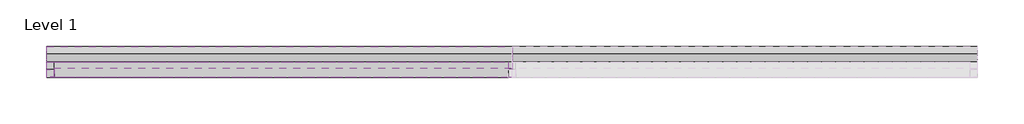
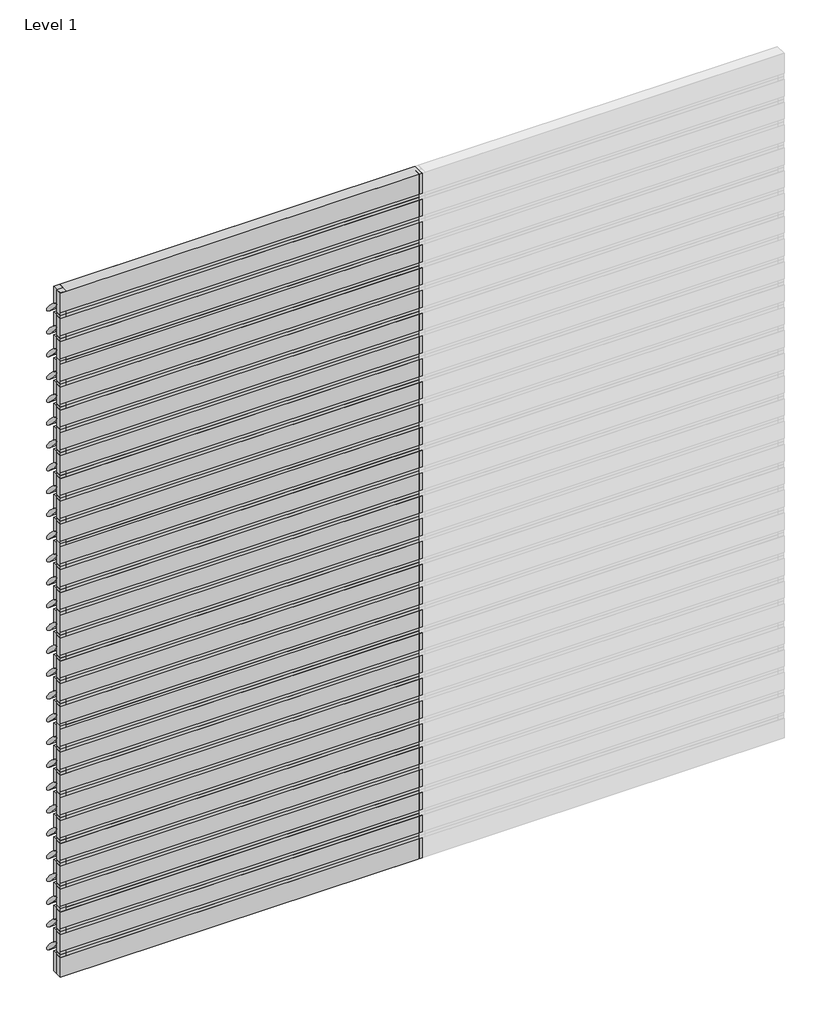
# One storey, part 1 of 2: 74 members, 60 plates.
"""IFC4 building model written with IfcOpenShell, lengths in millimetres."""

from ifc_helpers import new_model, si_unit, origin, place, context, project, spatial, transform, mapped, element, save
from components import rectangular_mullion_0c68277b, rectangular_mullion_a06afc58, empty_system_panel_empty_aee84036, empty_system_panel_empty_4cab923f, empty_system_panel_empty_34a2d59f

model = new_model("IFC4")

# Units and contexts
model_context = context("Model", 3, world=origin())
ifc_project = project(units=[si_unit("LENGTHUNIT", "METRE", prefix="MILLI")], contexts=[model_context])

# Site, building, storey
site = spatial("IfcSite", under=ifc_project)
building = spatial("IfcBuilding", under=site)
storey = spatial("IfcBuildingStorey", under=building, Name="Level 1", Elevation=0.0)

# Members
placement = place(None, origin())
rectangular_mullion_shape = rectangular_mullion_0c68277b(model_context)
element("IfcMember", 1, ObjectType="Rectangular Mullion : RSen_21_CWM_blade - 200 ellips - 45°_gen_duco projects", at=placement, inside=storey, context=model_context, shape_type="MappedRepresentation", body=[
    mapped(rectangular_mullion_shape, transform((3000.0, 3000.0, 200.0), x_axis=(0.0, 0.0, 1.0), y_axis=(0.0, 1.0, 0.0), z_axis=(-1.0, 0.0, 0.0))),
])
element("IfcMember", 2, ObjectType="Rectangular Mullion : RSen_21_CWM_blade - 200 ellips - 45°_gen_duco projects", at=placement, inside=storey, context=model_context, shape_type="MappedRepresentation", body=[
    mapped(rectangular_mullion_shape, transform((3000.0, 3000.0, 400.0), x_axis=(0.0, 0.0, 1.0), y_axis=(0.0, 1.0, 0.0), z_axis=(-1.0, 0.0, 0.0))),
])
element("IfcMember", 3, ObjectType="Rectangular Mullion : RSen_21_CWM_blade - 200 ellips - 45°_gen_duco projects", at=placement, inside=storey, context=model_context, shape_type="MappedRepresentation", body=[
    mapped(rectangular_mullion_shape, transform((3000.0, 3000.0, 600.0), x_axis=(0.0, 0.0, 1.0), y_axis=(0.0, 1.0, 0.0), z_axis=(-1.0, 0.0, 0.0))),
])
element("IfcMember", 4, ObjectType="Rectangular Mullion : RSen_21_CWM_blade - 200 ellips - 45°_gen_duco projects", at=placement, inside=storey, context=model_context, shape_type="MappedRepresentation", body=[
    mapped(rectangular_mullion_shape, transform((3000.0, 3000.0, 800.0), x_axis=(0.0, 0.0, 1.0), y_axis=(0.0, 1.0, 0.0), z_axis=(-1.0, 0.0, 0.0))),
])
element("IfcMember", 5, ObjectType="Rectangular Mullion : RSen_21_CWM_blade - 200 ellips - 45°_gen_duco projects", at=placement, inside=storey, context=model_context, shape_type="MappedRepresentation", body=[
    mapped(rectangular_mullion_shape, transform((3000.0, 3000.0, 1000.0), x_axis=(0.0, 0.0, 1.0), y_axis=(0.0, 1.0, 0.0), z_axis=(-1.0, 0.0, 0.0))),
])
element("IfcMember", 6, ObjectType="Rectangular Mullion : RSen_21_CWM_blade - 200 ellips - 45°_gen_duco projects", at=placement, inside=storey, context=model_context, shape_type="MappedRepresentation", body=[
    mapped(rectangular_mullion_shape, transform((3000.0, 3000.0, 1200.0), x_axis=(0.0, 0.0, 1.0), y_axis=(0.0, 1.0, 0.0), z_axis=(-1.0, 0.0, 0.0))),
])
element("IfcMember", 7, ObjectType="Rectangular Mullion : RSen_21_CWM_blade - 200 ellips - 45°_gen_duco projects", at=placement, inside=storey, context=model_context, shape_type="MappedRepresentation", body=[
    mapped(rectangular_mullion_shape, transform((3000.0, 3000.0, 1400.0), x_axis=(0.0, 0.0, 1.0), y_axis=(0.0, 1.0, 0.0), z_axis=(-1.0, 0.0, 0.0))),
])
element("IfcMember", 8, ObjectType="Rectangular Mullion : RSen_21_CWM_blade - 200 ellips - 45°_gen_duco projects", at=placement, inside=storey, context=model_context, shape_type="MappedRepresentation", body=[
    mapped(rectangular_mullion_shape, transform((3000.0, 3000.0, 1600.0), x_axis=(0.0, 0.0, 1.0), y_axis=(0.0, 1.0, 0.0), z_axis=(-1.0, 0.0, 0.0))),
])
element("IfcMember", 9, ObjectType="Rectangular Mullion : RSen_21_CWM_blade - 200 ellips - 45°_gen_duco projects", at=placement, inside=storey, context=model_context, shape_type="MappedRepresentation", body=[
    mapped(rectangular_mullion_shape, transform((3000.0, 3000.0, 1800.0), x_axis=(0.0, 0.0, 1.0), y_axis=(0.0, 1.0, 0.0), z_axis=(-1.0, 0.0, 0.0))),
])
element("IfcMember", 10, ObjectType="Rectangular Mullion : RSen_21_CWM_blade - 200 ellips - 45°_gen_duco projects", at=placement, inside=storey, context=model_context, shape_type="MappedRepresentation", body=[
    mapped(rectangular_mullion_shape, transform((3000.0, 3000.0, 2000.0), x_axis=(0.0, 0.0, 1.0), y_axis=(0.0, 1.0, 0.0), z_axis=(-1.0, 0.0, 0.0))),
])
element("IfcMember", 11, ObjectType="Rectangular Mullion : RSen_21_CWM_blade - 200 ellips - 45°_gen_duco projects", at=placement, inside=storey, context=model_context, shape_type="MappedRepresentation", body=[
    mapped(rectangular_mullion_shape, transform((3000.0, 3000.0, 2200.0), x_axis=(0.0, 0.0, 1.0), y_axis=(0.0, 1.0, 0.0), z_axis=(-1.0, 0.0, 0.0))),
])
element("IfcMember", 12, ObjectType="Rectangular Mullion : RSen_21_CWM_blade - 200 ellips - 45°_gen_duco projects", at=placement, inside=storey, context=model_context, shape_type="MappedRepresentation", body=[
    mapped(rectangular_mullion_shape, transform((3000.0, 3000.0, 2400.0), x_axis=(0.0, 0.0, 1.0), y_axis=(0.0, 1.0, 0.0), z_axis=(-1.0, 0.0, 0.0))),
])
element("IfcMember", 13, ObjectType="Rectangular Mullion : RSen_21_CWM_blade - 200 ellips - 45°_gen_duco projects", at=placement, inside=storey, context=model_context, shape_type="MappedRepresentation", body=[
    mapped(rectangular_mullion_shape, transform((3000.0, 3000.0, 2600.0), x_axis=(0.0, 0.0, 1.0), y_axis=(0.0, 1.0, 0.0), z_axis=(-1.0, 0.0, 0.0))),
])
element("IfcMember", 14, ObjectType="Rectangular Mullion : RSen_21_CWM_blade - 200 ellips - 45°_gen_duco projects", at=placement, inside=storey, context=model_context, shape_type="MappedRepresentation", body=[
    mapped(rectangular_mullion_shape, transform((3000.0, 3000.0, 2800.0), x_axis=(0.0, 0.0, 1.0), y_axis=(0.0, 1.0, 0.0), z_axis=(-1.0, 0.0, 0.0))),
])
element("IfcMember", 15, ObjectType="Rectangular Mullion : RSen_21_CWM_blade - 200 ellips - 45°_gen_duco projects", at=placement, inside=storey, context=model_context, shape_type="MappedRepresentation", body=[
    mapped(rectangular_mullion_shape, transform((3000.0, 3000.0, 3000.0), x_axis=(0.0, 0.0, 1.0), y_axis=(0.0, 1.0, 0.0), z_axis=(-1.0, 0.0, 0.0))),
])
element("IfcMember", 16, ObjectType="Rectangular Mullion : RSen_21_CWM_blade - 200 ellips - 45°_gen_duco projects", at=placement, inside=storey, context=model_context, shape_type="MappedRepresentation", body=[
    mapped(rectangular_mullion_shape, transform((0.0, 3000.0, 200.0), x_axis=(0.0, 0.0, 1.0), y_axis=(0.0, 1.0, 0.0), z_axis=(-1.0, 0.0, 0.0))),
])
element("IfcMember", 17, ObjectType="Rectangular Mullion : RSen_21_CWM_blade - 200 ellips - 45°_gen_duco projects", at=placement, inside=storey, context=model_context, shape_type="MappedRepresentation", body=[
    mapped(rectangular_mullion_shape, transform((0.0, 3000.0, 400.0), x_axis=(0.0, 0.0, 1.0), y_axis=(0.0, 1.0, 0.0), z_axis=(-1.0, 0.0, 0.0))),
])
element("IfcMember", 18, ObjectType="Rectangular Mullion : RSen_21_CWM_blade - 200 ellips - 45°_gen_duco projects", at=placement, inside=storey, context=model_context, shape_type="MappedRepresentation", body=[
    mapped(rectangular_mullion_shape, transform((0.0, 3000.0, 600.0), x_axis=(0.0, 0.0, 1.0), y_axis=(0.0, 1.0, 0.0), z_axis=(-1.0, 0.0, 0.0))),
])
element("IfcMember", 19, ObjectType="Rectangular Mullion : RSen_21_CWM_blade - 200 ellips - 45°_gen_duco projects", at=placement, inside=storey, context=model_context, shape_type="MappedRepresentation", body=[
    mapped(rectangular_mullion_shape, transform((0.0, 3000.0, 800.0), x_axis=(0.0, 0.0, 1.0), y_axis=(0.0, 1.0, 0.0), z_axis=(-1.0, 0.0, 0.0))),
])
element("IfcMember", 20, ObjectType="Rectangular Mullion : RSen_21_CWM_blade - 200 ellips - 45°_gen_duco projects", at=placement, inside=storey, context=model_context, shape_type="MappedRepresentation", body=[
    mapped(rectangular_mullion_shape, transform((0.0, 3000.0, 1000.0), x_axis=(0.0, 0.0, 1.0), y_axis=(0.0, 1.0, 0.0), z_axis=(-1.0, 0.0, 0.0))),
])
element("IfcMember", 21, ObjectType="Rectangular Mullion : RSen_21_CWM_blade - 200 ellips - 45°_gen_duco projects", at=placement, inside=storey, context=model_context, shape_type="MappedRepresentation", body=[
    mapped(rectangular_mullion_shape, transform((0.0, 3000.0, 1200.0), x_axis=(0.0, 0.0, 1.0), y_axis=(0.0, 1.0, 0.0), z_axis=(-1.0, 0.0, 0.0))),
])
element("IfcMember", 22, ObjectType="Rectangular Mullion : RSen_21_CWM_blade - 200 ellips - 45°_gen_duco projects", at=placement, inside=storey, context=model_context, shape_type="MappedRepresentation", body=[
    mapped(rectangular_mullion_shape, transform((0.0, 3000.0, 1400.0), x_axis=(0.0, 0.0, 1.0), y_axis=(0.0, 1.0, 0.0), z_axis=(-1.0, 0.0, 0.0))),
])
element("IfcMember", 23, ObjectType="Rectangular Mullion : RSen_21_CWM_blade - 200 ellips - 45°_gen_duco projects", at=placement, inside=storey, context=model_context, shape_type="MappedRepresentation", body=[
    mapped(rectangular_mullion_shape, transform((0.0, 3000.0, 1600.0), x_axis=(0.0, 0.0, 1.0), y_axis=(0.0, 1.0, 0.0), z_axis=(-1.0, 0.0, 0.0))),
])
element("IfcMember", 24, ObjectType="Rectangular Mullion : RSen_21_CWM_blade - 200 ellips - 45°_gen_duco projects", at=placement, inside=storey, context=model_context, shape_type="MappedRepresentation", body=[
    mapped(rectangular_mullion_shape, transform((0.0, 3000.0, 1800.0), x_axis=(0.0, 0.0, 1.0), y_axis=(0.0, 1.0, 0.0), z_axis=(-1.0, 0.0, 0.0))),
])
element("IfcMember", 25, ObjectType="Rectangular Mullion : RSen_21_CWM_blade - 200 ellips - 45°_gen_duco projects", at=placement, inside=storey, context=model_context, shape_type="MappedRepresentation", body=[
    mapped(rectangular_mullion_shape, transform((0.0, 3000.0, 2000.0), x_axis=(0.0, 0.0, 1.0), y_axis=(0.0, 1.0, 0.0), z_axis=(-1.0, 0.0, 0.0))),
])
element("IfcMember", 26, ObjectType="Rectangular Mullion : RSen_21_CWM_blade - 200 ellips - 45°_gen_duco projects", at=placement, inside=storey, context=model_context, shape_type="MappedRepresentation", body=[
    mapped(rectangular_mullion_shape, transform((0.0, 3000.0, 2200.0), x_axis=(0.0, 0.0, 1.0), y_axis=(0.0, 1.0, 0.0), z_axis=(-1.0, 0.0, 0.0))),
])
element("IfcMember", 27, ObjectType="Rectangular Mullion : RSen_21_CWM_blade - 200 ellips - 45°_gen_duco projects", at=placement, inside=storey, context=model_context, shape_type="MappedRepresentation", body=[
    mapped(rectangular_mullion_shape, transform((0.0, 3000.0, 2400.0), x_axis=(0.0, 0.0, 1.0), y_axis=(0.0, 1.0, 0.0), z_axis=(-1.0, 0.0, 0.0))),
])
element("IfcMember", 28, ObjectType="Rectangular Mullion : RSen_21_CWM_blade - 200 ellips - 45°_gen_duco projects", at=placement, inside=storey, context=model_context, shape_type="MappedRepresentation", body=[
    mapped(rectangular_mullion_shape, transform((0.0, 3000.0, 2600.0), x_axis=(0.0, 0.0, 1.0), y_axis=(0.0, 1.0, 0.0), z_axis=(-1.0, 0.0, 0.0))),
])
element("IfcMember", 29, ObjectType="Rectangular Mullion : RSen_21_CWM_blade - 200 ellips - 45°_gen_duco projects", at=placement, inside=storey, context=model_context, shape_type="MappedRepresentation", body=[
    mapped(rectangular_mullion_shape, transform((0.0, 3000.0, 2800.0), x_axis=(0.0, 0.0, 1.0), y_axis=(0.0, 1.0, 0.0), z_axis=(-1.0, 0.0, 0.0))),
])
element("IfcMember", 30, ObjectType="Rectangular Mullion : RSen_21_CWM_blade - 200 ellips - 45°_gen_duco projects", at=placement, inside=storey, context=model_context, shape_type="MappedRepresentation", body=[
    mapped(rectangular_mullion_shape, transform((0.0, 3000.0, 3000.0), x_axis=(0.0, 0.0, 1.0), y_axis=(0.0, 1.0, 0.0), z_axis=(-1.0, 0.0, 0.0))),
])
element("IfcMember", 31, ObjectType="Rectangular Mullion : RSen_21_CWM_blade - 200 ellips - 45°_gen_duco projects", at=placement, inside=storey, context=model_context, shape_type="MappedRepresentation", body=[
    mapped(rectangular_mullion_shape, transform((0.0, 3000.0, 3200.0), x_axis=(0.0, 0.0, 1.0), y_axis=(0.0, 1.0, 0.0), z_axis=(-1.0, 0.0, 0.0))),
])
element("IfcMember", 32, ObjectType="Rectangular Mullion : RSen_21_CWM_blade - 200 ellips - 45°_gen_duco projects", at=placement, inside=storey, context=model_context, shape_type="MappedRepresentation", body=[
    mapped(rectangular_mullion_shape, transform((0.0, 3000.0, 3400.0), x_axis=(0.0, 0.0, 1.0), y_axis=(0.0, 1.0, 0.0), z_axis=(-1.0, 0.0, 0.0))),
])
element("IfcMember", 33, ObjectType="Rectangular Mullion : RSen_21_CWM_blade - 200 ellips - 45°_gen_duco projects", at=placement, inside=storey, context=model_context, shape_type="MappedRepresentation", body=[
    mapped(rectangular_mullion_shape, transform((0.0, 3000.0, 3600.0), x_axis=(0.0, 0.0, 1.0), y_axis=(0.0, 1.0, 0.0), z_axis=(-1.0, 0.0, 0.0))),
])
element("IfcMember", 34, ObjectType="Rectangular Mullion : RSen_21_CWM_blade - 200 ellips - 45°_gen_duco projects", at=placement, inside=storey, context=model_context, shape_type="MappedRepresentation", body=[
    mapped(rectangular_mullion_shape, transform((0.0, 3000.0, 3800.0), x_axis=(0.0, 0.0, 1.0), y_axis=(0.0, 1.0, 0.0), z_axis=(-1.0, 0.0, 0.0))),
])
element("IfcMember", 35, ObjectType="Rectangular Mullion : RSen_21_CWM_blade - 200 ellips - 45°_gen_duco projects", at=placement, inside=storey, context=model_context, shape_type="MappedRepresentation", body=[
    mapped(rectangular_mullion_shape, transform((0.0, 3000.0, 4000.0), x_axis=(0.0, 0.0, 1.0), y_axis=(0.0, 1.0, 0.0), z_axis=(-1.0, 0.0, 0.0))),
])
element("IfcMember", 36, ObjectType="Rectangular Mullion : RSen_21_CWM_blade - 200 ellips - 45°_gen_duco projects", at=placement, inside=storey, context=model_context, shape_type="MappedRepresentation", body=[
    mapped(rectangular_mullion_shape, transform((0.0, 3000.0, 4200.0), x_axis=(0.0, 0.0, 1.0), y_axis=(0.0, 1.0, 0.0), z_axis=(-1.0, 0.0, 0.0))),
])
element("IfcMember", 37, ObjectType="Rectangular Mullion : RSen_21_CWM_blade - 200 ellips - 45°_gen_duco projects", at=placement, inside=storey, context=model_context, shape_type="MappedRepresentation", body=[
    mapped(rectangular_mullion_shape, transform((0.0, 3000.0, 4400.0), x_axis=(0.0, 0.0, 1.0), y_axis=(0.0, 1.0, 0.0), z_axis=(-1.0, 0.0, 0.0))),
])
element("IfcMember", 38, ObjectType="Rectangular Mullion : RSen_21_CWM_blade - 200 ellips - 45°_gen_duco projects", at=placement, inside=storey, context=model_context, shape_type="MappedRepresentation", body=[
    mapped(rectangular_mullion_shape, transform((0.0, 3000.0, 4600.0), x_axis=(0.0, 0.0, 1.0), y_axis=(0.0, 1.0, 0.0), z_axis=(-1.0, 0.0, 0.0))),
])
element("IfcMember", 39, ObjectType="Rectangular Mullion : RSen_21_CWM_blade - 200 ellips - 45°_gen_duco projects", at=placement, inside=storey, context=model_context, shape_type="MappedRepresentation", body=[
    mapped(rectangular_mullion_shape, transform((0.0, 3000.0, 4800.0), x_axis=(0.0, 0.0, 1.0), y_axis=(0.0, 1.0, 0.0), z_axis=(-1.0, 0.0, 0.0))),
])
element("IfcMember", 40, ObjectType="Rectangular Mullion : RSen_21_CWM_blade - 200 ellips - 45°_gen_duco projects", at=placement, inside=storey, context=model_context, shape_type="MappedRepresentation", body=[
    mapped(rectangular_mullion_shape, transform((0.0, 3000.0, 5000.0), x_axis=(0.0, 0.0, 1.0), y_axis=(0.0, 1.0, 0.0), z_axis=(-1.0, 0.0, 0.0))),
])
element("IfcMember", 41, ObjectType="Rectangular Mullion : RSen_21_CWM_blade - 200 ellips - 45°_gen_duco projects", at=placement, inside=storey, context=model_context, shape_type="MappedRepresentation", body=[
    mapped(rectangular_mullion_shape, transform((0.0, 3000.0, 5200.0), x_axis=(0.0, 0.0, 1.0), y_axis=(0.0, 1.0, 0.0), z_axis=(-1.0, 0.0, 0.0))),
])
element("IfcMember", 42, ObjectType="Rectangular Mullion : RSen_21_CWM_blade - 200 ellips - 45°_gen_duco projects", at=placement, inside=storey, context=model_context, shape_type="MappedRepresentation", body=[
    mapped(rectangular_mullion_shape, transform((0.0, 3000.0, 5400.0), x_axis=(0.0, 0.0, 1.0), y_axis=(0.0, 1.0, 0.0), z_axis=(-1.0, 0.0, 0.0))),
])
element("IfcMember", 43, ObjectType="Rectangular Mullion : RSen_21_CWM_blade - 200 ellips - 45°_gen_duco projects", at=placement, inside=storey, context=model_context, shape_type="MappedRepresentation", body=[
    mapped(rectangular_mullion_shape, transform((0.0, 3000.0, 5600.0), x_axis=(0.0, 0.0, 1.0), y_axis=(0.0, 1.0, 0.0), z_axis=(-1.0, 0.0, 0.0))),
])
element("IfcMember", 44, ObjectType="Rectangular Mullion : RSen_21_CWM_blade - 200 ellips - 45°_gen_duco projects", at=placement, inside=storey, context=model_context, shape_type="MappedRepresentation", body=[
    mapped(rectangular_mullion_shape, transform((0.0, 3000.0, 5800.0), x_axis=(0.0, 0.0, 1.0), y_axis=(0.0, 1.0, 0.0), z_axis=(-1.0, 0.0, 0.0))),
])
rectangular_mullion_2_shape = rectangular_mullion_a06afc58(model_context)
element("IfcMember", 45, ObjectType="Rectangular Mullion : RSen_21_CWM_support profile 50x50 - left_gen_duco projects", at=placement, inside=storey, context=model_context, shape_type="MappedRepresentation", body=[
    mapped(rectangular_mullion_2_shape, transform((0.0, 3000.0, 0.0), x_axis=(-1.0, 0.0, 0.0), y_axis=(0.0, 1.0, 0.0), z_axis=(0.0, 0.0, -1.0))),
])
element("IfcMember", 46, ObjectType="Rectangular Mullion : RSen_21_CWM_support profile 50x50 - left_gen_duco projects", at=placement, inside=storey, context=model_context, shape_type="MappedRepresentation", body=[
    mapped(rectangular_mullion_2_shape, transform((0.0, 3000.0, 200.0), x_axis=(-1.0, 0.0, 0.0), y_axis=(0.0, 1.0, 0.0), z_axis=(0.0, 0.0, -1.0))),
])
element("IfcMember", 47, ObjectType="Rectangular Mullion : RSen_21_CWM_support profile 50x50 - left_gen_duco projects", at=placement, inside=storey, context=model_context, shape_type="MappedRepresentation", body=[
    mapped(rectangular_mullion_2_shape, transform((0.0, 3000.0, 400.0), x_axis=(-1.0, 0.0, 0.0), y_axis=(0.0, 1.0, 0.0), z_axis=(0.0, 0.0, -1.0))),
])
element("IfcMember", 48, ObjectType="Rectangular Mullion : RSen_21_CWM_support profile 50x50 - left_gen_duco projects", at=placement, inside=storey, context=model_context, shape_type="MappedRepresentation", body=[
    mapped(rectangular_mullion_2_shape, transform((0.0, 3000.0, 600.0), x_axis=(-1.0, 0.0, 0.0), y_axis=(0.0, 1.0, 0.0), z_axis=(0.0, 0.0, -1.0))),
])
element("IfcMember", 49, ObjectType="Rectangular Mullion : RSen_21_CWM_support profile 50x50 - left_gen_duco projects", at=placement, inside=storey, context=model_context, shape_type="MappedRepresentation", body=[
    mapped(rectangular_mullion_2_shape, transform((0.0, 3000.0, 800.0), x_axis=(-1.0, 0.0, 0.0), y_axis=(0.0, 1.0, 0.0), z_axis=(0.0, 0.0, -1.0))),
])
element("IfcMember", 50, ObjectType="Rectangular Mullion : RSen_21_CWM_support profile 50x50 - left_gen_duco projects", at=placement, inside=storey, context=model_context, shape_type="MappedRepresentation", body=[
    mapped(rectangular_mullion_2_shape, transform((0.0, 3000.0, 1000.0), x_axis=(-1.0, 0.0, 0.0), y_axis=(0.0, 1.0, 0.0), z_axis=(0.0, 0.0, -1.0))),
])
element("IfcMember", 51, ObjectType="Rectangular Mullion : RSen_21_CWM_support profile 50x50 - left_gen_duco projects", at=placement, inside=storey, context=model_context, shape_type="MappedRepresentation", body=[
    mapped(rectangular_mullion_2_shape, transform((0.0, 3000.0, 1200.0), x_axis=(-1.0, 0.0, 0.0), y_axis=(0.0, 1.0, 0.0), z_axis=(0.0, 0.0, -1.0))),
])
element("IfcMember", 52, ObjectType="Rectangular Mullion : RSen_21_CWM_support profile 50x50 - left_gen_duco projects", at=placement, inside=storey, context=model_context, shape_type="MappedRepresentation", body=[
    mapped(rectangular_mullion_2_shape, transform((0.0, 3000.0, 1400.0), x_axis=(-1.0, 0.0, 0.0), y_axis=(0.0, 1.0, 0.0), z_axis=(0.0, 0.0, -1.0))),
])
element("IfcMember", 53, ObjectType="Rectangular Mullion : RSen_21_CWM_support profile 50x50 - left_gen_duco projects", at=placement, inside=storey, context=model_context, shape_type="MappedRepresentation", body=[
    mapped(rectangular_mullion_2_shape, transform((0.0, 3000.0, 1600.0), x_axis=(-1.0, 0.0, 0.0), y_axis=(0.0, 1.0, 0.0), z_axis=(0.0, 0.0, -1.0))),
])
element("IfcMember", 54, ObjectType="Rectangular Mullion : RSen_21_CWM_support profile 50x50 - left_gen_duco projects", at=placement, inside=storey, context=model_context, shape_type="MappedRepresentation", body=[
    mapped(rectangular_mullion_2_shape, transform((0.0, 3000.0, 1800.0), x_axis=(-1.0, 0.0, 0.0), y_axis=(0.0, 1.0, 0.0), z_axis=(0.0, 0.0, -1.0))),
])
element("IfcMember", 55, ObjectType="Rectangular Mullion : RSen_21_CWM_support profile 50x50 - left_gen_duco projects", at=placement, inside=storey, context=model_context, shape_type="MappedRepresentation", body=[
    mapped(rectangular_mullion_2_shape, transform((0.0, 3000.0, 2000.0), x_axis=(-1.0, 0.0, 0.0), y_axis=(0.0, 1.0, 0.0), z_axis=(0.0, 0.0, -1.0))),
])
element("IfcMember", 56, ObjectType="Rectangular Mullion : RSen_21_CWM_support profile 50x50 - left_gen_duco projects", at=placement, inside=storey, context=model_context, shape_type="MappedRepresentation", body=[
    mapped(rectangular_mullion_2_shape, transform((0.0, 3000.0, 2200.0), x_axis=(-1.0, 0.0, 0.0), y_axis=(0.0, 1.0, 0.0), z_axis=(0.0, 0.0, -1.0))),
])
element("IfcMember", 57, ObjectType="Rectangular Mullion : RSen_21_CWM_support profile 50x50 - left_gen_duco projects", at=placement, inside=storey, context=model_context, shape_type="MappedRepresentation", body=[
    mapped(rectangular_mullion_2_shape, transform((0.0, 3000.0, 2400.0), x_axis=(-1.0, 0.0, 0.0), y_axis=(0.0, 1.0, 0.0), z_axis=(0.0, 0.0, -1.0))),
])
element("IfcMember", 58, ObjectType="Rectangular Mullion : RSen_21_CWM_support profile 50x50 - left_gen_duco projects", at=placement, inside=storey, context=model_context, shape_type="MappedRepresentation", body=[
    mapped(rectangular_mullion_2_shape, transform((0.0, 3000.0, 2600.0), x_axis=(-1.0, 0.0, 0.0), y_axis=(0.0, 1.0, 0.0), z_axis=(0.0, 0.0, -1.0))),
])
element("IfcMember", 59, ObjectType="Rectangular Mullion : RSen_21_CWM_support profile 50x50 - left_gen_duco projects", at=placement, inside=storey, context=model_context, shape_type="MappedRepresentation", body=[
    mapped(rectangular_mullion_2_shape, transform((0.0, 3000.0, 2800.0), x_axis=(-1.0, 0.0, 0.0), y_axis=(0.0, 1.0, 0.0), z_axis=(0.0, 0.0, -1.0))),
])
element("IfcMember", 60, ObjectType="Rectangular Mullion : RSen_21_CWM_support profile 50x50 - left_gen_duco projects", at=placement, inside=storey, context=model_context, shape_type="MappedRepresentation", body=[
    mapped(rectangular_mullion_2_shape, transform((0.0, 3000.0, 3000.0), x_axis=(-1.0, 0.0, 0.0), y_axis=(0.0, 1.0, 0.0), z_axis=(0.0, 0.0, -1.0))),
])
element("IfcMember", 61, ObjectType="Rectangular Mullion : RSen_21_CWM_support profile 50x50 - left_gen_duco projects", at=placement, inside=storey, context=model_context, shape_type="MappedRepresentation", body=[
    mapped(rectangular_mullion_2_shape, transform((0.0, 3000.0, 3200.0), x_axis=(-1.0, 0.0, 0.0), y_axis=(0.0, 1.0, 0.0), z_axis=(0.0, 0.0, -1.0))),
])
element("IfcMember", 62, ObjectType="Rectangular Mullion : RSen_21_CWM_support profile 50x50 - left_gen_duco projects", at=placement, inside=storey, context=model_context, shape_type="MappedRepresentation", body=[
    mapped(rectangular_mullion_2_shape, transform((0.0, 3000.0, 3400.0), x_axis=(-1.0, 0.0, 0.0), y_axis=(0.0, 1.0, 0.0), z_axis=(0.0, 0.0, -1.0))),
])
element("IfcMember", 63, ObjectType="Rectangular Mullion : RSen_21_CWM_support profile 50x50 - left_gen_duco projects", at=placement, inside=storey, context=model_context, shape_type="MappedRepresentation", body=[
    mapped(rectangular_mullion_2_shape, transform((0.0, 3000.0, 3600.0), x_axis=(-1.0, 0.0, 0.0), y_axis=(0.0, 1.0, 0.0), z_axis=(0.0, 0.0, -1.0))),
])
element("IfcMember", 64, ObjectType="Rectangular Mullion : RSen_21_CWM_support profile 50x50 - left_gen_duco projects", at=placement, inside=storey, context=model_context, shape_type="MappedRepresentation", body=[
    mapped(rectangular_mullion_2_shape, transform((0.0, 3000.0, 3800.0), x_axis=(-1.0, 0.0, 0.0), y_axis=(0.0, 1.0, 0.0), z_axis=(0.0, 0.0, -1.0))),
])
element("IfcMember", 65, ObjectType="Rectangular Mullion : RSen_21_CWM_support profile 50x50 - left_gen_duco projects", at=placement, inside=storey, context=model_context, shape_type="MappedRepresentation", body=[
    mapped(rectangular_mullion_2_shape, transform((0.0, 3000.0, 4000.0), x_axis=(-1.0, 0.0, 0.0), y_axis=(0.0, 1.0, 0.0), z_axis=(0.0, 0.0, -1.0))),
])
element("IfcMember", 66, ObjectType="Rectangular Mullion : RSen_21_CWM_support profile 50x50 - left_gen_duco projects", at=placement, inside=storey, context=model_context, shape_type="MappedRepresentation", body=[
    mapped(rectangular_mullion_2_shape, transform((0.0, 3000.0, 4200.0), x_axis=(-1.0, 0.0, 0.0), y_axis=(0.0, 1.0, 0.0), z_axis=(0.0, 0.0, -1.0))),
])
element("IfcMember", 67, ObjectType="Rectangular Mullion : RSen_21_CWM_support profile 50x50 - left_gen_duco projects", at=placement, inside=storey, context=model_context, shape_type="MappedRepresentation", body=[
    mapped(rectangular_mullion_2_shape, transform((0.0, 3000.0, 4400.0), x_axis=(-1.0, 0.0, 0.0), y_axis=(0.0, 1.0, 0.0), z_axis=(0.0, 0.0, -1.0))),
])
element("IfcMember", 68, ObjectType="Rectangular Mullion : RSen_21_CWM_support profile 50x50 - left_gen_duco projects", at=placement, inside=storey, context=model_context, shape_type="MappedRepresentation", body=[
    mapped(rectangular_mullion_2_shape, transform((0.0, 3000.0, 4600.0), x_axis=(-1.0, 0.0, 0.0), y_axis=(0.0, 1.0, 0.0), z_axis=(0.0, 0.0, -1.0))),
])
element("IfcMember", 69, ObjectType="Rectangular Mullion : RSen_21_CWM_support profile 50x50 - left_gen_duco projects", at=placement, inside=storey, context=model_context, shape_type="MappedRepresentation", body=[
    mapped(rectangular_mullion_2_shape, transform((0.0, 3000.0, 4800.0), x_axis=(-1.0, 0.0, 0.0), y_axis=(0.0, 1.0, 0.0), z_axis=(0.0, 0.0, -1.0))),
])
element("IfcMember", 70, ObjectType="Rectangular Mullion : RSen_21_CWM_support profile 50x50 - left_gen_duco projects", at=placement, inside=storey, context=model_context, shape_type="MappedRepresentation", body=[
    mapped(rectangular_mullion_2_shape, transform((0.0, 3000.0, 5000.0), x_axis=(-1.0, 0.0, 0.0), y_axis=(0.0, 1.0, 0.0), z_axis=(0.0, 0.0, -1.0))),
])
element("IfcMember", 71, ObjectType="Rectangular Mullion : RSen_21_CWM_support profile 50x50 - left_gen_duco projects", at=placement, inside=storey, context=model_context, shape_type="MappedRepresentation", body=[
    mapped(rectangular_mullion_2_shape, transform((0.0, 3000.0, 5200.0), x_axis=(-1.0, 0.0, 0.0), y_axis=(0.0, 1.0, 0.0), z_axis=(0.0, 0.0, -1.0))),
])
element("IfcMember", 72, ObjectType="Rectangular Mullion : RSen_21_CWM_support profile 50x50 - left_gen_duco projects", at=placement, inside=storey, context=model_context, shape_type="MappedRepresentation", body=[
    mapped(rectangular_mullion_2_shape, transform((0.0, 3000.0, 5400.0), x_axis=(-1.0, 0.0, 0.0), y_axis=(0.0, 1.0, 0.0), z_axis=(0.0, 0.0, -1.0))),
])
element("IfcMember", 73, ObjectType="Rectangular Mullion : RSen_21_CWM_support profile 50x50 - left_gen_duco projects", at=placement, inside=storey, context=model_context, shape_type="MappedRepresentation", body=[
    mapped(rectangular_mullion_2_shape, transform((0.0, 3000.0, 5600.0), x_axis=(-1.0, 0.0, 0.0), y_axis=(0.0, 1.0, 0.0), z_axis=(0.0, 0.0, -1.0))),
])
element("IfcMember", 74, ObjectType="Rectangular Mullion : RSen_21_CWM_support profile 50x50 - left_gen_duco projects", at=placement, inside=storey, context=model_context, shape_type="MappedRepresentation", body=[
    mapped(rectangular_mullion_2_shape, transform((0.0, 3000.0, 5800.0), x_axis=(-1.0, 0.0, 0.0), y_axis=(0.0, 1.0, 0.0), z_axis=(0.0, 0.0, -1.0))),
])

# Plates
empty_system_panel_empty_shape = empty_system_panel_empty_aee84036(model_context)
element("IfcPlate", 75, ObjectType="Empty System Panel : Empty", at=placement, inside=storey, context=model_context, shape_type="MappedRepresentation", body=[
    mapped(empty_system_panel_empty_shape, transform((1500.0, 3000.0, 0.0), x_axis=(-1.0, 0.0, 0.0), y_axis=(0.0, -1.0, 0.0), z_axis=(0.0, 0.0, 1.0))),
])
element("IfcPlate", 76, ObjectType="Empty System Panel : Empty", at=placement, inside=storey, context=model_context, shape_type="MappedRepresentation", body=[
    mapped(empty_system_panel_empty_shape, transform((1500.0, 3000.0, 5826.1629509), x_axis=(-1.0, 0.0, 0.0), y_axis=(0.0, -1.0, 0.0), z_axis=(0.0, 0.0, 1.0))),
])
empty_system_panel_empty_2_shape = empty_system_panel_empty_4cab923f(model_context)
element("IfcPlate", 77, ObjectType="Empty System Panel : Empty", at=placement, inside=storey, context=model_context, shape_type="MappedRepresentation", body=[
    mapped(empty_system_panel_empty_2_shape, transform((1500.0, 3000.0, 226.1629509), x_axis=(-1.0, 0.0, 0.0), y_axis=(0.0, -1.0, 0.0), z_axis=(0.0, 0.0, 1.0))),
])
element("IfcPlate", 78, ObjectType="Empty System Panel : Empty", at=placement, inside=storey, context=model_context, shape_type="MappedRepresentation", body=[
    mapped(empty_system_panel_empty_2_shape, transform((1500.0, 3000.0, 426.1629509), x_axis=(-1.0, 0.0, 0.0), y_axis=(0.0, -1.0, 0.0), z_axis=(0.0, 0.0, 1.0))),
])
element("IfcPlate", 79, ObjectType="Empty System Panel : Empty", at=placement, inside=storey, context=model_context, shape_type="MappedRepresentation", body=[
    mapped(empty_system_panel_empty_2_shape, transform((1500.0, 3000.0, 626.1629509), x_axis=(-1.0, 0.0, 0.0), y_axis=(0.0, -1.0, 0.0), z_axis=(0.0, 0.0, 1.0))),
])
element("IfcPlate", 80, ObjectType="Empty System Panel : Empty", at=placement, inside=storey, context=model_context, shape_type="MappedRepresentation", body=[
    mapped(empty_system_panel_empty_2_shape, transform((1500.0, 3000.0, 826.1629509), x_axis=(-1.0, 0.0, 0.0), y_axis=(0.0, -1.0, 0.0), z_axis=(0.0, 0.0, 1.0))),
])
element("IfcPlate", 81, ObjectType="Empty System Panel : Empty", at=placement, inside=storey, context=model_context, shape_type="MappedRepresentation", body=[
    mapped(empty_system_panel_empty_2_shape, transform((1500.0, 3000.0, 1026.1629509), x_axis=(-1.0, 0.0, 0.0), y_axis=(0.0, -1.0, 0.0), z_axis=(0.0, 0.0, 1.0))),
])
element("IfcPlate", 82, ObjectType="Empty System Panel : Empty", at=placement, inside=storey, context=model_context, shape_type="MappedRepresentation", body=[
    mapped(empty_system_panel_empty_2_shape, transform((1500.0, 3000.0, 1226.1629509), x_axis=(-1.0, 0.0, 0.0), y_axis=(0.0, -1.0, 0.0), z_axis=(0.0, 0.0, 1.0))),
])
element("IfcPlate", 83, ObjectType="Empty System Panel : Empty", at=placement, inside=storey, context=model_context, shape_type="MappedRepresentation", body=[
    mapped(empty_system_panel_empty_2_shape, transform((1500.0, 3000.0, 1426.1629509), x_axis=(-1.0, 0.0, 0.0), y_axis=(0.0, -1.0, 0.0), z_axis=(0.0, 0.0, 1.0))),
])
element("IfcPlate", 84, ObjectType="Empty System Panel : Empty", at=placement, inside=storey, context=model_context, shape_type="MappedRepresentation", body=[
    mapped(empty_system_panel_empty_2_shape, transform((1500.0, 3000.0, 1626.1629509), x_axis=(-1.0, 0.0, 0.0), y_axis=(0.0, -1.0, 0.0), z_axis=(0.0, 0.0, 1.0))),
])
element("IfcPlate", 85, ObjectType="Empty System Panel : Empty", at=placement, inside=storey, context=model_context, shape_type="MappedRepresentation", body=[
    mapped(empty_system_panel_empty_2_shape, transform((1500.0, 3000.0, 1826.1629509), x_axis=(-1.0, 0.0, 0.0), y_axis=(0.0, -1.0, 0.0), z_axis=(0.0, 0.0, 1.0))),
])
element("IfcPlate", 86, ObjectType="Empty System Panel : Empty", at=placement, inside=storey, context=model_context, shape_type="MappedRepresentation", body=[
    mapped(empty_system_panel_empty_2_shape, transform((1500.0, 3000.0, 2026.1629509), x_axis=(-1.0, 0.0, 0.0), y_axis=(0.0, -1.0, 0.0), z_axis=(0.0, 0.0, 1.0))),
])
element("IfcPlate", 87, ObjectType="Empty System Panel : Empty", at=placement, inside=storey, context=model_context, shape_type="MappedRepresentation", body=[
    mapped(empty_system_panel_empty_2_shape, transform((1500.0, 3000.0, 2226.1629509), x_axis=(-1.0, 0.0, 0.0), y_axis=(0.0, -1.0, 0.0), z_axis=(0.0, 0.0, 1.0))),
])
element("IfcPlate", 88, ObjectType="Empty System Panel : Empty", at=placement, inside=storey, context=model_context, shape_type="MappedRepresentation", body=[
    mapped(empty_system_panel_empty_2_shape, transform((1500.0, 3000.0, 2426.1629509), x_axis=(-1.0, 0.0, 0.0), y_axis=(0.0, -1.0, 0.0), z_axis=(0.0, 0.0, 1.0))),
])
element("IfcPlate", 89, ObjectType="Empty System Panel : Empty", at=placement, inside=storey, context=model_context, shape_type="MappedRepresentation", body=[
    mapped(empty_system_panel_empty_2_shape, transform((1500.0, 3000.0, 2626.1629509), x_axis=(-1.0, 0.0, 0.0), y_axis=(0.0, -1.0, 0.0), z_axis=(0.0, 0.0, 1.0))),
])
element("IfcPlate", 90, ObjectType="Empty System Panel : Empty", at=placement, inside=storey, context=model_context, shape_type="MappedRepresentation", body=[
    mapped(empty_system_panel_empty_2_shape, transform((1500.0, 3000.0, 2826.1629509), x_axis=(-1.0, 0.0, 0.0), y_axis=(0.0, -1.0, 0.0), z_axis=(0.0, 0.0, 1.0))),
])
element("IfcPlate", 91, ObjectType="Empty System Panel : Empty", at=placement, inside=storey, context=model_context, shape_type="MappedRepresentation", body=[
    mapped(empty_system_panel_empty_2_shape, transform((1500.0, 3000.0, 3026.1629509), x_axis=(-1.0, 0.0, 0.0), y_axis=(0.0, -1.0, 0.0), z_axis=(0.0, 0.0, 1.0))),
])
element("IfcPlate", 92, ObjectType="Empty System Panel : Empty", at=placement, inside=storey, context=model_context, shape_type="MappedRepresentation", body=[
    mapped(empty_system_panel_empty_2_shape, transform((1500.0, 3000.0, 3226.1629509), x_axis=(-1.0, 0.0, 0.0), y_axis=(0.0, -1.0, 0.0), z_axis=(0.0, 0.0, 1.0))),
])
element("IfcPlate", 93, ObjectType="Empty System Panel : Empty", at=placement, inside=storey, context=model_context, shape_type="MappedRepresentation", body=[
    mapped(empty_system_panel_empty_2_shape, transform((1500.0, 3000.0, 3426.1629509), x_axis=(-1.0, 0.0, 0.0), y_axis=(0.0, -1.0, 0.0), z_axis=(0.0, 0.0, 1.0))),
])
element("IfcPlate", 94, ObjectType="Empty System Panel : Empty", at=placement, inside=storey, context=model_context, shape_type="MappedRepresentation", body=[
    mapped(empty_system_panel_empty_2_shape, transform((1500.0, 3000.0, 3626.1629509), x_axis=(-1.0, 0.0, 0.0), y_axis=(0.0, -1.0, 0.0), z_axis=(0.0, 0.0, 1.0))),
])
element("IfcPlate", 95, ObjectType="Empty System Panel : Empty", at=placement, inside=storey, context=model_context, shape_type="MappedRepresentation", body=[
    mapped(empty_system_panel_empty_2_shape, transform((1500.0, 3000.0, 3826.1629509), x_axis=(-1.0, 0.0, 0.0), y_axis=(0.0, -1.0, 0.0), z_axis=(0.0, 0.0, 1.0))),
])
element("IfcPlate", 96, ObjectType="Empty System Panel : Empty", at=placement, inside=storey, context=model_context, shape_type="MappedRepresentation", body=[
    mapped(empty_system_panel_empty_2_shape, transform((1500.0, 3000.0, 4026.1629509), x_axis=(-1.0, 0.0, 0.0), y_axis=(0.0, -1.0, 0.0), z_axis=(0.0, 0.0, 1.0))),
])
element("IfcPlate", 97, ObjectType="Empty System Panel : Empty", at=placement, inside=storey, context=model_context, shape_type="MappedRepresentation", body=[
    mapped(empty_system_panel_empty_2_shape, transform((1500.0, 3000.0, 4226.1629509), x_axis=(-1.0, 0.0, 0.0), y_axis=(0.0, -1.0, 0.0), z_axis=(0.0, 0.0, 1.0))),
])
element("IfcPlate", 98, ObjectType="Empty System Panel : Empty", at=placement, inside=storey, context=model_context, shape_type="MappedRepresentation", body=[
    mapped(empty_system_panel_empty_2_shape, transform((1500.0, 3000.0, 4426.1629509), x_axis=(-1.0, 0.0, 0.0), y_axis=(0.0, -1.0, 0.0), z_axis=(0.0, 0.0, 1.0))),
])
element("IfcPlate", 99, ObjectType="Empty System Panel : Empty", at=placement, inside=storey, context=model_context, shape_type="MappedRepresentation", body=[
    mapped(empty_system_panel_empty_2_shape, transform((1500.0, 3000.0, 4626.1629509), x_axis=(-1.0, 0.0, 0.0), y_axis=(0.0, -1.0, 0.0), z_axis=(0.0, 0.0, 1.0))),
])
element("IfcPlate", 100, ObjectType="Empty System Panel : Empty", at=placement, inside=storey, context=model_context, shape_type="MappedRepresentation", body=[
    mapped(empty_system_panel_empty_2_shape, transform((1500.0, 3000.0, 4826.1629509), x_axis=(-1.0, 0.0, 0.0), y_axis=(0.0, -1.0, 0.0), z_axis=(0.0, 0.0, 1.0))),
])
element("IfcPlate", 101, ObjectType="Empty System Panel : Empty", at=placement, inside=storey, context=model_context, shape_type="MappedRepresentation", body=[
    mapped(empty_system_panel_empty_2_shape, transform((1500.0, 3000.0, 5026.1629509), x_axis=(-1.0, 0.0, 0.0), y_axis=(0.0, -1.0, 0.0), z_axis=(0.0, 0.0, 1.0))),
])
element("IfcPlate", 102, ObjectType="Empty System Panel : Empty", at=placement, inside=storey, context=model_context, shape_type="MappedRepresentation", body=[
    mapped(empty_system_panel_empty_2_shape, transform((1500.0, 3000.0, 5226.1629509), x_axis=(-1.0, 0.0, 0.0), y_axis=(0.0, -1.0, 0.0), z_axis=(0.0, 0.0, 1.0))),
])
element("IfcPlate", 103, ObjectType="Empty System Panel : Empty", at=placement, inside=storey, context=model_context, shape_type="MappedRepresentation", body=[
    mapped(empty_system_panel_empty_2_shape, transform((1500.0, 3000.0, 5426.1629509), x_axis=(-1.0, 0.0, 0.0), y_axis=(0.0, -1.0, 0.0), z_axis=(0.0, 0.0, 1.0))),
])
element("IfcPlate", 104, ObjectType="Empty System Panel : Empty", at=placement, inside=storey, context=model_context, shape_type="MappedRepresentation", body=[
    mapped(empty_system_panel_empty_2_shape, transform((1500.0, 3000.0, 5626.1629509), x_axis=(-1.0, 0.0, 0.0), y_axis=(0.0, -1.0, 0.0), z_axis=(0.0, 0.0, 1.0))),
])
empty_system_panel_empty_3_shape = empty_system_panel_empty_34a2d59f(model_context)
element("IfcPlate", 105, ObjectType="Empty System Panel : Empty", at=placement, inside=storey, context=model_context, shape_type="MappedRepresentation", body=[
    mapped(empty_system_panel_empty_3_shape, transform((1512.5, 3000.0, 0.0), x_axis=(-1.0, 0.0, 0.0), y_axis=(0.0, -1.0, 0.0), z_axis=(0.0, 0.0, 1.0))),
])
element("IfcPlate", 106, ObjectType="Empty System Panel : Empty", at=placement, inside=storey, context=model_context, shape_type="MappedRepresentation", body=[
    mapped(empty_system_panel_empty_3_shape, transform((1512.5, 3000.0, 200.0), x_axis=(-1.0, 0.0, 0.0), y_axis=(0.0, -1.0, 0.0), z_axis=(0.0, 0.0, 1.0))),
])
element("IfcPlate", 107, ObjectType="Empty System Panel : Empty", at=placement, inside=storey, context=model_context, shape_type="MappedRepresentation", body=[
    mapped(empty_system_panel_empty_3_shape, transform((1512.5, 3000.0, 400.0), x_axis=(-1.0, 0.0, 0.0), y_axis=(0.0, -1.0, 0.0), z_axis=(0.0, 0.0, 1.0))),
])
element("IfcPlate", 108, ObjectType="Empty System Panel : Empty", at=placement, inside=storey, context=model_context, shape_type="MappedRepresentation", body=[
    mapped(empty_system_panel_empty_3_shape, transform((1512.5, 3000.0, 600.0), x_axis=(-1.0, 0.0, 0.0), y_axis=(0.0, -1.0, 0.0), z_axis=(0.0, 0.0, 1.0))),
])
element("IfcPlate", 109, ObjectType="Empty System Panel : Empty", at=placement, inside=storey, context=model_context, shape_type="MappedRepresentation", body=[
    mapped(empty_system_panel_empty_3_shape, transform((1512.5, 3000.0, 800.0), x_axis=(-1.0, 0.0, 0.0), y_axis=(0.0, -1.0, 0.0), z_axis=(0.0, 0.0, 1.0))),
])
element("IfcPlate", 110, ObjectType="Empty System Panel : Empty", at=placement, inside=storey, context=model_context, shape_type="MappedRepresentation", body=[
    mapped(empty_system_panel_empty_3_shape, transform((1512.5, 3000.0, 1000.0), x_axis=(-1.0, 0.0, 0.0), y_axis=(0.0, -1.0, 0.0), z_axis=(0.0, 0.0, 1.0))),
])
element("IfcPlate", 111, ObjectType="Empty System Panel : Empty", at=placement, inside=storey, context=model_context, shape_type="MappedRepresentation", body=[
    mapped(empty_system_panel_empty_3_shape, transform((1512.5, 3000.0, 1200.0), x_axis=(-1.0, 0.0, 0.0), y_axis=(0.0, -1.0, 0.0), z_axis=(0.0, 0.0, 1.0))),
])
element("IfcPlate", 112, ObjectType="Empty System Panel : Empty", at=placement, inside=storey, context=model_context, shape_type="MappedRepresentation", body=[
    mapped(empty_system_panel_empty_3_shape, transform((1512.5, 3000.0, 1400.0), x_axis=(-1.0, 0.0, 0.0), y_axis=(0.0, -1.0, 0.0), z_axis=(0.0, 0.0, 1.0))),
])
element("IfcPlate", 113, ObjectType="Empty System Panel : Empty", at=placement, inside=storey, context=model_context, shape_type="MappedRepresentation", body=[
    mapped(empty_system_panel_empty_3_shape, transform((1512.5, 3000.0, 1600.0), x_axis=(-1.0, 0.0, 0.0), y_axis=(0.0, -1.0, 0.0), z_axis=(0.0, 0.0, 1.0))),
])
element("IfcPlate", 114, ObjectType="Empty System Panel : Empty", at=placement, inside=storey, context=model_context, shape_type="MappedRepresentation", body=[
    mapped(empty_system_panel_empty_3_shape, transform((1512.5, 3000.0, 1800.0), x_axis=(-1.0, 0.0, 0.0), y_axis=(0.0, -1.0, 0.0), z_axis=(0.0, 0.0, 1.0))),
])
element("IfcPlate", 115, ObjectType="Empty System Panel : Empty", at=placement, inside=storey, context=model_context, shape_type="MappedRepresentation", body=[
    mapped(empty_system_panel_empty_3_shape, transform((1512.5, 3000.0, 2000.0), x_axis=(-1.0, 0.0, 0.0), y_axis=(0.0, -1.0, 0.0), z_axis=(0.0, 0.0, 1.0))),
])
element("IfcPlate", 116, ObjectType="Empty System Panel : Empty", at=placement, inside=storey, context=model_context, shape_type="MappedRepresentation", body=[
    mapped(empty_system_panel_empty_3_shape, transform((1512.5, 3000.0, 2200.0), x_axis=(-1.0, 0.0, 0.0), y_axis=(0.0, -1.0, 0.0), z_axis=(0.0, 0.0, 1.0))),
])
element("IfcPlate", 117, ObjectType="Empty System Panel : Empty", at=placement, inside=storey, context=model_context, shape_type="MappedRepresentation", body=[
    mapped(empty_system_panel_empty_3_shape, transform((1512.5, 3000.0, 2400.0), x_axis=(-1.0, 0.0, 0.0), y_axis=(0.0, -1.0, 0.0), z_axis=(0.0, 0.0, 1.0))),
])
element("IfcPlate", 118, ObjectType="Empty System Panel : Empty", at=placement, inside=storey, context=model_context, shape_type="MappedRepresentation", body=[
    mapped(empty_system_panel_empty_3_shape, transform((1512.5, 3000.0, 2600.0), x_axis=(-1.0, 0.0, 0.0), y_axis=(0.0, -1.0, 0.0), z_axis=(0.0, 0.0, 1.0))),
])
element("IfcPlate", 119, ObjectType="Empty System Panel : Empty", at=placement, inside=storey, context=model_context, shape_type="MappedRepresentation", body=[
    mapped(empty_system_panel_empty_3_shape, transform((1512.5, 3000.0, 2800.0), x_axis=(-1.0, 0.0, 0.0), y_axis=(0.0, -1.0, 0.0), z_axis=(0.0, 0.0, 1.0))),
])
element("IfcPlate", 120, ObjectType="Empty System Panel : Empty", at=placement, inside=storey, context=model_context, shape_type="MappedRepresentation", body=[
    mapped(empty_system_panel_empty_3_shape, transform((1512.5, 3000.0, 3000.0), x_axis=(-1.0, 0.0, 0.0), y_axis=(0.0, -1.0, 0.0), z_axis=(0.0, 0.0, 1.0))),
])
element("IfcPlate", 121, ObjectType="Empty System Panel : Empty", at=placement, inside=storey, context=model_context, shape_type="MappedRepresentation", body=[
    mapped(empty_system_panel_empty_3_shape, transform((1512.5, 3000.0, 3200.0), x_axis=(-1.0, 0.0, 0.0), y_axis=(0.0, -1.0, 0.0), z_axis=(0.0, 0.0, 1.0))),
])
element("IfcPlate", 122, ObjectType="Empty System Panel : Empty", at=placement, inside=storey, context=model_context, shape_type="MappedRepresentation", body=[
    mapped(empty_system_panel_empty_3_shape, transform((1512.5, 3000.0, 3400.0), x_axis=(-1.0, 0.0, 0.0), y_axis=(0.0, -1.0, 0.0), z_axis=(0.0, 0.0, 1.0))),
])
element("IfcPlate", 123, ObjectType="Empty System Panel : Empty", at=placement, inside=storey, context=model_context, shape_type="MappedRepresentation", body=[
    mapped(empty_system_panel_empty_3_shape, transform((1512.5, 3000.0, 3600.0), x_axis=(-1.0, 0.0, 0.0), y_axis=(0.0, -1.0, 0.0), z_axis=(0.0, 0.0, 1.0))),
])
element("IfcPlate", 124, ObjectType="Empty System Panel : Empty", at=placement, inside=storey, context=model_context, shape_type="MappedRepresentation", body=[
    mapped(empty_system_panel_empty_3_shape, transform((1512.5, 3000.0, 3800.0), x_axis=(-1.0, 0.0, 0.0), y_axis=(0.0, -1.0, 0.0), z_axis=(0.0, 0.0, 1.0))),
])
element("IfcPlate", 125, ObjectType="Empty System Panel : Empty", at=placement, inside=storey, context=model_context, shape_type="MappedRepresentation", body=[
    mapped(empty_system_panel_empty_3_shape, transform((1512.5, 3000.0, 4000.0), x_axis=(-1.0, 0.0, 0.0), y_axis=(0.0, -1.0, 0.0), z_axis=(0.0, 0.0, 1.0))),
])
element("IfcPlate", 126, ObjectType="Empty System Panel : Empty", at=placement, inside=storey, context=model_context, shape_type="MappedRepresentation", body=[
    mapped(empty_system_panel_empty_3_shape, transform((1512.5, 3000.0, 4200.0), x_axis=(-1.0, 0.0, 0.0), y_axis=(0.0, -1.0, 0.0), z_axis=(0.0, 0.0, 1.0))),
])
element("IfcPlate", 127, ObjectType="Empty System Panel : Empty", at=placement, inside=storey, context=model_context, shape_type="MappedRepresentation", body=[
    mapped(empty_system_panel_empty_3_shape, transform((1512.5, 3000.0, 4400.0), x_axis=(-1.0, 0.0, 0.0), y_axis=(0.0, -1.0, 0.0), z_axis=(0.0, 0.0, 1.0))),
])
element("IfcPlate", 128, ObjectType="Empty System Panel : Empty", at=placement, inside=storey, context=model_context, shape_type="MappedRepresentation", body=[
    mapped(empty_system_panel_empty_3_shape, transform((1512.5, 3000.0, 4600.0), x_axis=(-1.0, 0.0, 0.0), y_axis=(0.0, -1.0, 0.0), z_axis=(0.0, 0.0, 1.0))),
])
element("IfcPlate", 129, ObjectType="Empty System Panel : Empty", at=placement, inside=storey, context=model_context, shape_type="MappedRepresentation", body=[
    mapped(empty_system_panel_empty_3_shape, transform((1512.5, 3000.0, 4800.0), x_axis=(-1.0, 0.0, 0.0), y_axis=(0.0, -1.0, 0.0), z_axis=(0.0, 0.0, 1.0))),
])
element("IfcPlate", 130, ObjectType="Empty System Panel : Empty", at=placement, inside=storey, context=model_context, shape_type="MappedRepresentation", body=[
    mapped(empty_system_panel_empty_3_shape, transform((1512.5, 3000.0, 5000.0), x_axis=(-1.0, 0.0, 0.0), y_axis=(0.0, -1.0, 0.0), z_axis=(0.0, 0.0, 1.0))),
])
element("IfcPlate", 131, ObjectType="Empty System Panel : Empty", at=placement, inside=storey, context=model_context, shape_type="MappedRepresentation", body=[
    mapped(empty_system_panel_empty_3_shape, transform((1512.5, 3000.0, 5200.0), x_axis=(-1.0, 0.0, 0.0), y_axis=(0.0, -1.0, 0.0), z_axis=(0.0, 0.0, 1.0))),
])
element("IfcPlate", 132, ObjectType="Empty System Panel : Empty", at=placement, inside=storey, context=model_context, shape_type="MappedRepresentation", body=[
    mapped(empty_system_panel_empty_3_shape, transform((1512.5, 3000.0, 5400.0), x_axis=(-1.0, 0.0, 0.0), y_axis=(0.0, -1.0, 0.0), z_axis=(0.0, 0.0, 1.0))),
])
element("IfcPlate", 133, ObjectType="Empty System Panel : Empty", at=placement, inside=storey, context=model_context, shape_type="MappedRepresentation", body=[
    mapped(empty_system_panel_empty_3_shape, transform((1512.5, 3000.0, 5600.0), x_axis=(-1.0, 0.0, 0.0), y_axis=(0.0, -1.0, 0.0), z_axis=(0.0, 0.0, 1.0))),
])
element("IfcPlate", 134, ObjectType="Empty System Panel : Empty", at=placement, inside=storey, context=model_context, shape_type="MappedRepresentation", body=[
    mapped(empty_system_panel_empty_3_shape, transform((1512.5, 3000.0, 5800.0), x_axis=(-1.0, 0.0, 0.0), y_axis=(0.0, -1.0, 0.0), z_axis=(0.0, 0.0, 1.0))),
])

save(model, "model.ifc")
